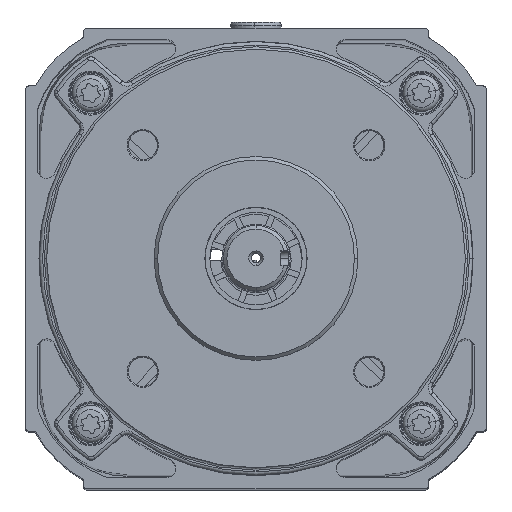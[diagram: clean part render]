
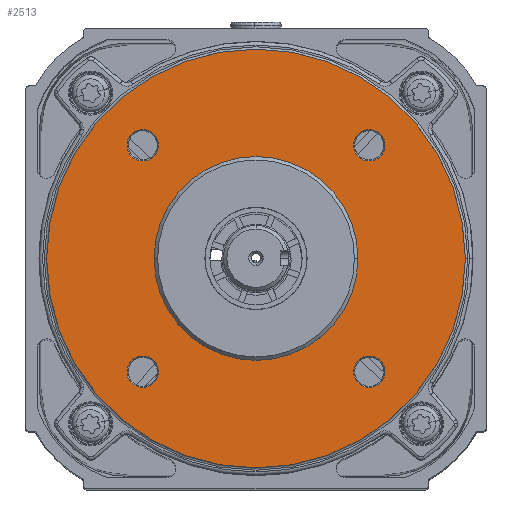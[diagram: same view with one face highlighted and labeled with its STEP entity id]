
A CAD part, top view. The second image highlights one B-rep face of the part: STEP entity #2513.
In plain terms, the highlighted planar face has unit normal (0, 0, 1).
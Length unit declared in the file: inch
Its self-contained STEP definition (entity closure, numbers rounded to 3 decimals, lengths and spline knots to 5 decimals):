
#2454 = EDGE_CURVE ( 'NONE', #31243, #31242, #10738, .T. ) ;
#2500 = EDGE_CURVE ( 'NONE', #31202, #31205, #10755, .T. ) ;
#2512 = EDGE_CURVE ( 'NONE', #31061, #31058, #10831, .T. ) ;
#2513 = ADVANCED_FACE ( 'NONE', ( #10822, #10821, #10820, #10819, #10818, #10816 ), #10815, .F. ) ;
#2514 = EDGE_LOOP ( 'NONE', ( #2515, #2516 ) ) ;
#2515 = ORIENTED_EDGE ( 'NONE', *, *, #2512, .F. ) ;
#2516 = ORIENTED_EDGE ( 'NONE', *, *, #31060, .F. ) ;
#2517 = EDGE_LOOP ( 'NONE', ( #2568, #2569 ) ) ;
#2524 = EDGE_CURVE ( 'NONE', #31109, #31106, #10932, .T. ) ;
#2533 = EDGE_CURVE ( 'NONE', #31105, #31102, #10901, .T. ) ;
#2544 = EDGE_CURVE ( 'NONE', #31155, #31152, #10970, .T. ) ;
#2554 = ORIENTED_EDGE ( 'NONE', *, *, #31241, .F. ) ;
#2555 = ORIENTED_EDGE ( 'NONE', *, *, #2454, .F. ) ;
#2568 = ORIENTED_EDGE ( 'NONE', *, *, #2524, .F. ) ;
#2569 = ORIENTED_EDGE ( 'NONE', *, *, #31108, .F. ) ;
#2570 = EDGE_LOOP ( 'NONE', ( #2571, #2572 ) ) ;
#2571 = ORIENTED_EDGE ( 'NONE', *, *, #2533, .F. ) ;
#2572 = ORIENTED_EDGE ( 'NONE', *, *, #31104, .F. ) ;
#2573 = EDGE_LOOP ( 'NONE', ( #2574, #2575 ) ) ;
#2574 = ORIENTED_EDGE ( 'NONE', *, *, #2544, .F. ) ;
#2575 = ORIENTED_EDGE ( 'NONE', *, *, #31154, .F. ) ;
#2576 = EDGE_LOOP ( 'NONE', ( #2577, #2578 ) ) ;
#2577 = ORIENTED_EDGE ( 'NONE', *, *, #31204, .T. ) ;
#2578 = ORIENTED_EDGE ( 'NONE', *, *, #2500, .T. ) ;
#2579 = EDGE_LOOP ( 'NONE', ( #2554, #2555 ) ) ;
#10733 = DIRECTION ( 'NONE',  ( -1., 0., 0. ) ) ;
#10734 = DIRECTION ( 'NONE',  ( 0., 0., -1. ) ) ;
#10735 = CARTESIAN_POINT ( 'NONE',  ( 0., 0., 5.912 ) ) ;
#10736 = AXIS2_PLACEMENT_3D ( 'NONE', #10735, #10734, #10733 ) ;
#10738 = CIRCLE ( 'NONE', #10736, 1.79741 ) ;
#10748 = DIRECTION ( 'NONE',  ( -1., 0., 0. ) ) ;
#10750 = DIRECTION ( 'NONE',  ( 0., 0., -1. ) ) ;
#10752 = CARTESIAN_POINT ( 'NONE',  ( 0., 0., 5.912 ) ) ;
#10754 = AXIS2_PLACEMENT_3D ( 'NONE', #10752, #10750, #10748 ) ;
#10755 = CIRCLE ( 'NONE', #10754, 0.875 ) ;
#10805 = DIRECTION ( 'NONE',  ( -1., 0., 0. ) ) ;
#10806 = DIRECTION ( 'NONE',  ( 0., 0., -1. ) ) ;
#10807 = AXIS2_PLACEMENT_3D ( 'NONE', #10813, #10806, #10805 ) ;
#10808 = CARTESIAN_POINT ( 'NONE',  ( 0.97227, -0.97227, 5.912 ) ) ;
#10813 = CARTESIAN_POINT ( 'NONE',  ( -0.875, 0., 5.912 ) ) ;
#10815 = PLANE ( 'NONE',  #10807 ) ;
#10816 = FACE_OUTER_BOUND ( 'NONE', #2579, .T. ) ;
#10818 = FACE_BOUND ( 'NONE', #2576, .T. ) ;
#10819 = FACE_BOUND ( 'NONE', #2573, .T. ) ;
#10820 = FACE_BOUND ( 'NONE', #2570, .T. ) ;
#10821 = FACE_BOUND ( 'NONE', #2517, .T. ) ;
#10822 = FACE_BOUND ( 'NONE', #2514, .T. ) ;
#10824 = DIRECTION ( 'NONE',  ( 1., 0., 0. ) ) ;
#10826 = DIRECTION ( 'NONE',  ( 0., 0., 1. ) ) ;
#10829 = CARTESIAN_POINT ( 'NONE',  ( 0.97227, 0.97227, 5.912 ) ) ;
#10830 = AXIS2_PLACEMENT_3D ( 'NONE', #10829, #10826, #10824 ) ;
#10831 = CIRCLE ( 'NONE', #10830, 0.135 ) ;
#10894 = DIRECTION ( 'NONE',  ( 1., 0., 0. ) ) ;
#10897 = DIRECTION ( 'NONE',  ( 0., 0., 1. ) ) ;
#10898 = CARTESIAN_POINT ( 'NONE',  ( -0.97227, -0.97227, 5.912 ) ) ;
#10900 = AXIS2_PLACEMENT_3D ( 'NONE', #10898, #10897, #10894 ) ;
#10901 = CIRCLE ( 'NONE', #10900, 0.135 ) ;
#10927 = DIRECTION ( 'NONE',  ( 1., 0., 0. ) ) ;
#10928 = DIRECTION ( 'NONE',  ( 0., 0., 1. ) ) ;
#10930 = AXIS2_PLACEMENT_3D ( 'NONE', #10808, #10928, #10927 ) ;
#10932 = CIRCLE ( 'NONE', #10930, 0.135 ) ;
#10964 = DIRECTION ( 'NONE',  ( 1., 0., 0. ) ) ;
#10965 = DIRECTION ( 'NONE',  ( 0., 0., 1. ) ) ;
#10966 = CARTESIAN_POINT ( 'NONE',  ( -0.97227, 0.97227, 5.912 ) ) ;
#10968 = AXIS2_PLACEMENT_3D ( 'NONE', #10966, #10965, #10964 ) ;
#10970 = CIRCLE ( 'NONE', #10968, 0.135 ) ;
#18895 = CARTESIAN_POINT ( 'NONE',  ( 1.10727, 0.97227, 5.912 ) ) ;
#18896 = DIRECTION ( 'NONE',  ( 1., 0., 0. ) ) ;
#18897 = DIRECTION ( 'NONE',  ( 0., 0., 1. ) ) ;
#18898 = CARTESIAN_POINT ( 'NONE',  ( 0.97227, 0.97227, 5.912 ) ) ;
#18899 = AXIS2_PLACEMENT_3D ( 'NONE', #18898, #18897, #18896 ) ;
#18900 = CIRCLE ( 'NONE', #18899, 0.135 ) ;
#18901 = CARTESIAN_POINT ( 'NONE',  ( 0.83727, 0.97227, 5.912 ) ) ;
#18976 = CIRCLE ( 'NONE', #19046, 0.135 ) ;
#18977 = CARTESIAN_POINT ( 'NONE',  ( -1.10727, -0.97227, 5.912 ) ) ;
#19035 = CARTESIAN_POINT ( 'NONE',  ( 1.10727, -0.97227, 5.912 ) ) ;
#19036 = DIRECTION ( 'NONE',  ( 1., 0., 0. ) ) ;
#19037 = DIRECTION ( 'NONE',  ( 0., 0., 1. ) ) ;
#19038 = CARTESIAN_POINT ( 'NONE',  ( 0.97227, -0.97227, 5.912 ) ) ;
#19039 = AXIS2_PLACEMENT_3D ( 'NONE', #19038, #19037, #19036 ) ;
#19040 = CIRCLE ( 'NONE', #19039, 0.135 ) ;
#19041 = CARTESIAN_POINT ( 'NONE',  ( 0.83727, -0.97227, 5.912 ) ) ;
#19042 = CARTESIAN_POINT ( 'NONE',  ( -0.83727, -0.97227, 5.912 ) ) ;
#19043 = DIRECTION ( 'NONE',  ( 1., 0., 0. ) ) ;
#19044 = DIRECTION ( 'NONE',  ( 0., 0., 1. ) ) ;
#19045 = CARTESIAN_POINT ( 'NONE',  ( -0.97227, -0.97227, 5.912 ) ) ;
#19046 = AXIS2_PLACEMENT_3D ( 'NONE', #19045, #19044, #19043 ) ;
#19077 = CIRCLE ( 'NONE', #19140, 0.135 ) ;
#19078 = CARTESIAN_POINT ( 'NONE',  ( -1.10727, 0.97227, 5.912 ) ) ;
#19136 = CARTESIAN_POINT ( 'NONE',  ( -0.83727, 0.97227, 5.912 ) ) ;
#19137 = DIRECTION ( 'NONE',  ( 1., 0., 0. ) ) ;
#19138 = DIRECTION ( 'NONE',  ( 0., 0., 1. ) ) ;
#19139 = CARTESIAN_POINT ( 'NONE',  ( -0.97227, 0.97227, 5.912 ) ) ;
#19140 = AXIS2_PLACEMENT_3D ( 'NONE', #19139, #19138, #19137 ) ;
#19227 = CARTESIAN_POINT ( 'NONE',  ( -0.875, 0., 5.912 ) ) ;
#19228 = DIRECTION ( 'NONE',  ( -1., 0., 0. ) ) ;
#19229 = DIRECTION ( 'NONE',  ( 0., 0., -1. ) ) ;
#19230 = CARTESIAN_POINT ( 'NONE',  ( 0., 0., 5.912 ) ) ;
#19231 = AXIS2_PLACEMENT_3D ( 'NONE', #19230, #19229, #19228 ) ;
#19232 = CIRCLE ( 'NONE', #19231, 0.875 ) ;
#19233 = CARTESIAN_POINT ( 'NONE',  ( 0.875, 0., 5.912 ) ) ;
#19276 = CARTESIAN_POINT ( 'NONE',  ( 1.79741, 0., 5.912 ) ) ;
#19277 = CARTESIAN_POINT ( 'NONE',  ( -1.79741, 0., 5.912 ) ) ;
#19278 = DIRECTION ( 'NONE',  ( -1., 0., 0. ) ) ;
#19279 = DIRECTION ( 'NONE',  ( 0., 0., -1. ) ) ;
#19280 = CARTESIAN_POINT ( 'NONE',  ( 0., 0., 5.912 ) ) ;
#19281 = AXIS2_PLACEMENT_3D ( 'NONE', #19280, #19279, #19278 ) ;
#19286 = CIRCLE ( 'NONE', #19281, 1.79741 ) ;
#31058 = VERTEX_POINT ( 'NONE', #18901 ) ;
#31060 = EDGE_CURVE ( 'NONE', #31058, #31061, #18900, .T. ) ;
#31061 = VERTEX_POINT ( 'NONE', #18895 ) ;
#31102 = VERTEX_POINT ( 'NONE', #18977 ) ;
#31104 = EDGE_CURVE ( 'NONE', #31102, #31105, #18976, .T. ) ;
#31105 = VERTEX_POINT ( 'NONE', #19042 ) ;
#31106 = VERTEX_POINT ( 'NONE', #19041 ) ;
#31108 = EDGE_CURVE ( 'NONE', #31106, #31109, #19040, .T. ) ;
#31109 = VERTEX_POINT ( 'NONE', #19035 ) ;
#31152 = VERTEX_POINT ( 'NONE', #19078 ) ;
#31154 = EDGE_CURVE ( 'NONE', #31152, #31155, #19077, .T. ) ;
#31155 = VERTEX_POINT ( 'NONE', #19136 ) ;
#31202 = VERTEX_POINT ( 'NONE', #19233 ) ;
#31204 = EDGE_CURVE ( 'NONE', #31205, #31202, #19232, .T. ) ;
#31205 = VERTEX_POINT ( 'NONE', #19227 ) ;
#31241 = EDGE_CURVE ( 'NONE', #31242, #31243, #19286, .T. ) ;
#31242 = VERTEX_POINT ( 'NONE', #19277 ) ;
#31243 = VERTEX_POINT ( 'NONE', #19276 ) ;
